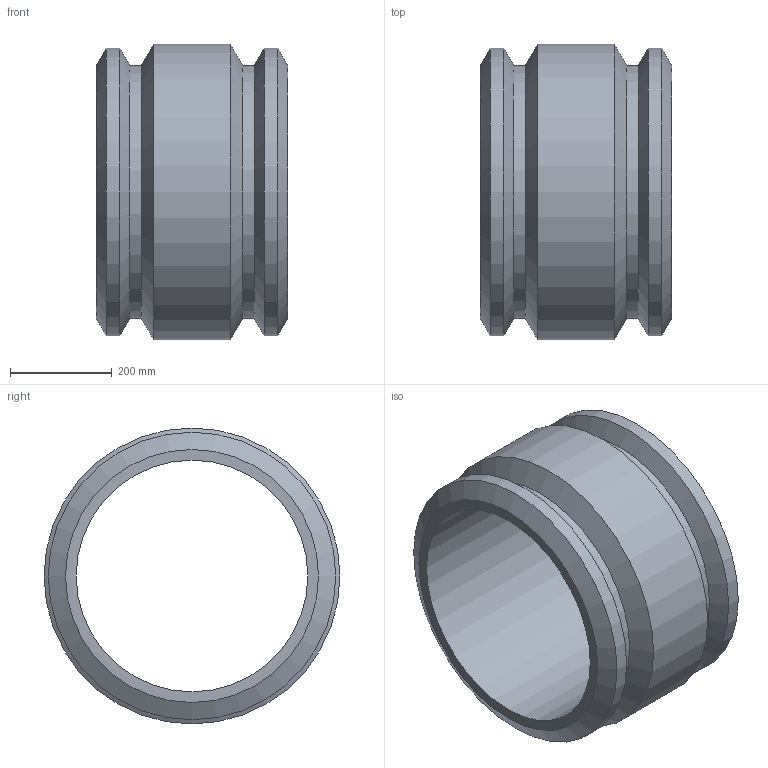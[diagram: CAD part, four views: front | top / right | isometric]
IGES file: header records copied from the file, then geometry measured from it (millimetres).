
Global section: file name: 5901D003180.ipt; native system: Autodesk Inventor 2019; preprocessor: unknown; author: KIM; date: 20210830.100918; units: inch
Bounding box: 375.92 x 581.41 x 581.41 mm (x, y, z)
Volume: 29418853.6 mm3; surface area: 1466359.1 mm2
Topology: 1 solids, 1 shells, 14 faces, 28 edges, 16 vertices
Faces by surface type: cone 6, cylinder 5, plane 2, revolution 1
Full cylindrical faces by diameter (mm): 497.108 x2, 564.896 x2, 581.406 x1
